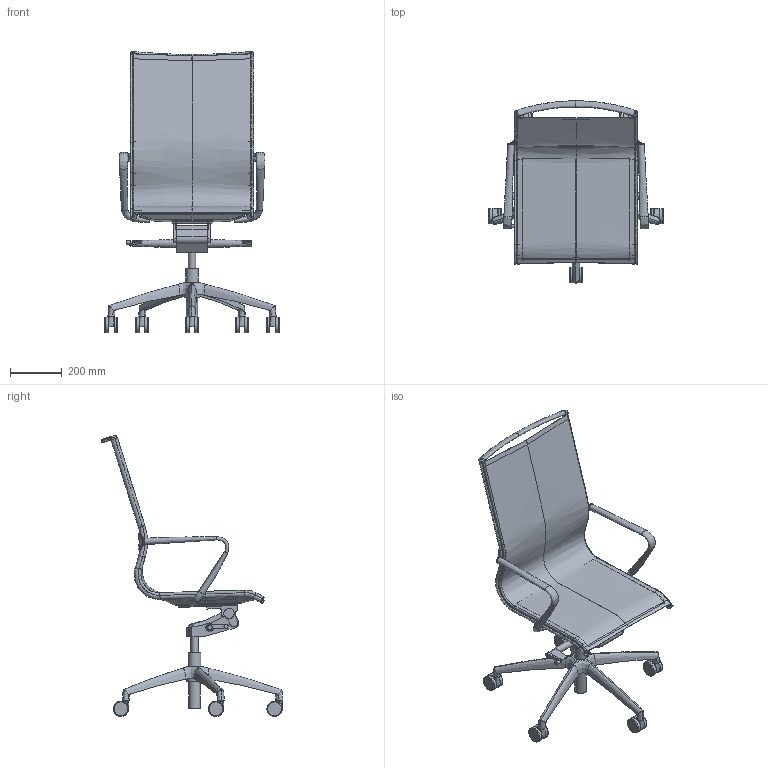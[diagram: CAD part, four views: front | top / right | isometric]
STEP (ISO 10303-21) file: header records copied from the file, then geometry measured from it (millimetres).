
FILE_DESCRIPTION(/* description */ (''),/* implementation_level */ '2;1');
FILE_NAME(/* name */ 'PL3332~1',/* time_stamp */ '2018-04-10T15:12:26+02:00',/* author */ (''),/* organization */ (''),/* preprocessor_version */ 'ST-DEVELOPER v16.5',/* originating_system */ '',/* authorisation */ '');
FILE_SCHEMA (('AUTOMOTIVE_DESIGN'));
Length unit declared in the file: millimetre
Products named in the file (1): Document
Bounding box: 677.7 x 706.27 x 1092.2 mm (x, y, z)
Volume: 9695815.9 mm3; surface area: 1804030 mm2
Topology: 15 solids, 43 shells, 413 faces, 1031 edges, 658 vertices
Faces by surface type: bspline 287, plane 126
Entity records: 25994 total; most frequent: CARTESIAN_POINT 20010, ORIENTED_EDGE 1867, EDGE_CURVE 1008, VERTEX_POINT 652, B_SPLINE_CURVE_WITH_KNOTS 442, EDGE_LOOP 417, ADVANCED_FACE 413, FACE_OUTER_BOUND 413
